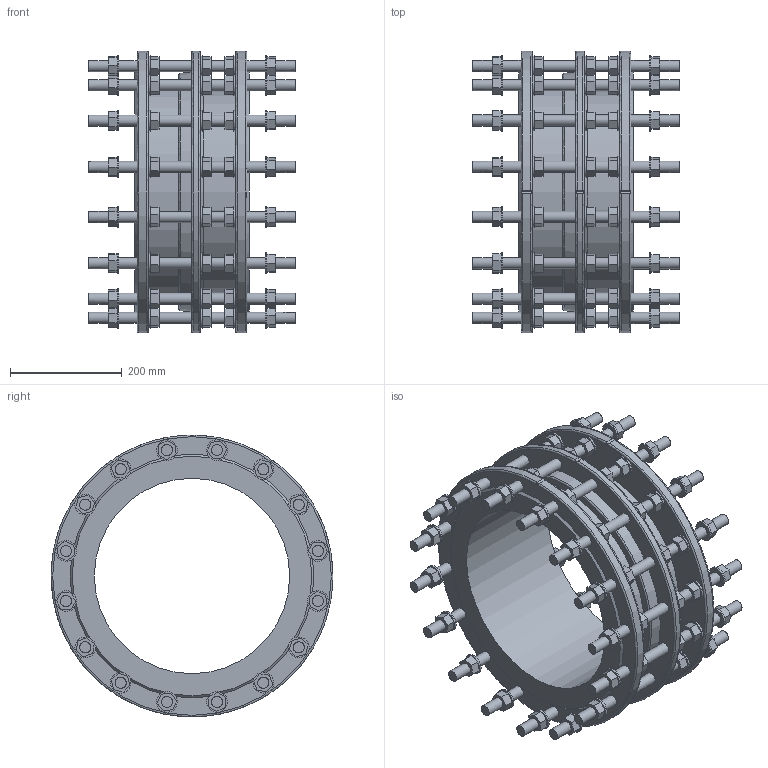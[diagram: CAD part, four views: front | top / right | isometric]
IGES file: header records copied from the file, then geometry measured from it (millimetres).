
Start section: SolidWorks IGES file using analytic representation for surfaces
Global section: file name: \\avksan2\techshare\PBM outline export from Enovia\O_265_911_DN350_0XXXXX01_L=205_REV01.igs; native system: SolidWorks 2022; preprocessor: SolidWorks 2022; author: pbm; date: 241212.090028; units: millimetre
Bounding box: 370 x 505 x 504.96 mm (x, y, z)
Surface area: 1438615.2 mm2 (no closed solid volume)
Topology: 0 solids, 0 shells, 970 faces, 4272 edges, 4086 vertices
Faces by surface type: bspline 768, revolution 202
